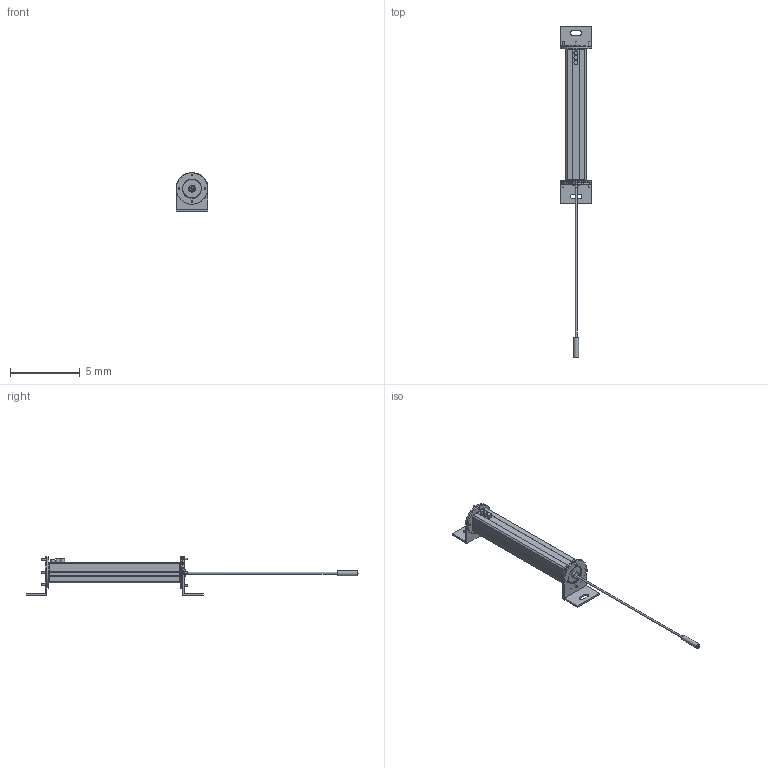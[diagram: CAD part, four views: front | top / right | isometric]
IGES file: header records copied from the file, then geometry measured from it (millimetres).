
Start section:  Autodesk DirectConnect version 7.0.27.0 ---- IGES version 5.3
Global section: file name: C:\ACADFILES\SS_PYLONS\CUSTOMER_FILES\SS-08-PYLON_3D_SMB.iges; native system: Autodesk DirectConnect 7.0.27.0; preprocessor: 7.0.27.0; author: ENGINEERMAIN; organization: Unknown; date: 20150810.124030; units: millimetre
Bounding box: 2.26 x 23.81 x 2.75 mm (x, y, z)
Surface area: 209.5 mm2 (no closed solid volume)
Topology: 0 solids, 0 shells, 754 faces, 3833 edges, 3829 vertices
Faces by surface type: bspline 754
